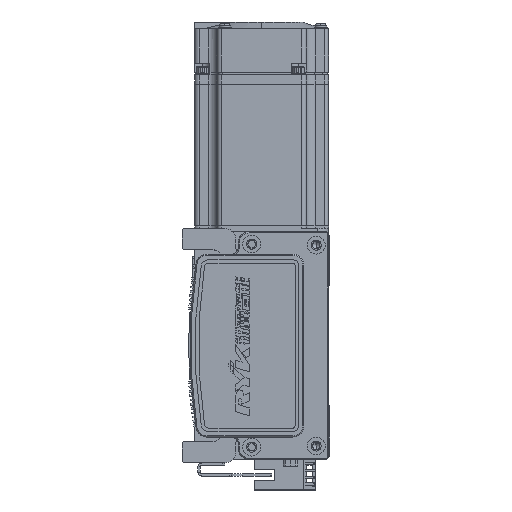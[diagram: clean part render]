
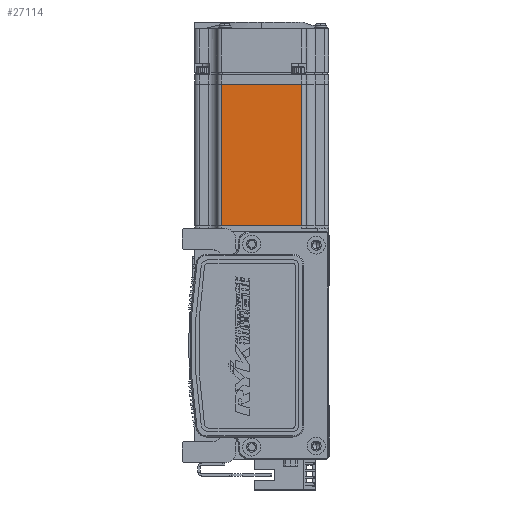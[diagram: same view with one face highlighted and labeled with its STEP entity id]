
A CAD part, left-side view. The second image highlights one B-rep face of the part: STEP entity #27114.
In plain terms, the highlighted planar face has unit normal (-1, 0, 0) as drawn and (0, 0, -1) by its records, which use the part's own axes.
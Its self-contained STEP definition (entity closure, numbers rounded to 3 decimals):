
#139 = DIRECTION ( 'NONE',  ( 1., 0., 0. ) ) ;
#1027 = CARTESIAN_POINT ( 'NONE',  ( -70.95, 25., -30. ) ) ;
#2162 = CARTESIAN_POINT ( 'NONE',  ( -70.95, 18., -30. ) ) ;
#3736 = LINE ( 'NONE', #1027, #49995 ) ;
#4298 = LINE ( 'NONE', #8071, #20242 ) ;
#4303 = CARTESIAN_POINT ( 'NONE',  ( -7.75, 25., -30. ) ) ;
#5466 = DIRECTION ( 'NONE',  ( 0., 0., -1. ) ) ;
#7720 = EDGE_LOOP ( 'NONE', ( #34503, #42675, #32839, #25451 ) ) ;
#7960 = CARTESIAN_POINT ( 'NONE',  ( -7.75, -18., -30. ) ) ;
#8071 = CARTESIAN_POINT ( 'NONE',  ( -6.5, -18., -30. ) ) ;
#10190 = VERTEX_POINT ( 'NONE', #7960 ) ;
#12372 = VERTEX_POINT ( 'NONE', #2162 ) ;
#13340 = EDGE_CURVE ( 'NONE', #12372, #35164, #23524, .T. ) ;
#13509 = VERTEX_POINT ( 'NONE', #47395 ) ;
#15843 = FACE_OUTER_BOUND ( 'NONE', #7720, .T. ) ;
#18894 = EDGE_CURVE ( 'NONE', #13509, #12372, #3736, .T. ) ;
#20242 = VECTOR ( 'NONE', #33286, 1000. ) ;
#23524 = LINE ( 'NONE', #25103, #37943 ) ;
#24812 = DIRECTION ( 'NONE',  ( 0., -1., 0. ) ) ;
#25103 = CARTESIAN_POINT ( 'NONE',  ( -6.5, 18., -30. ) ) ;
#25451 = ORIENTED_EDGE ( 'NONE', *, *, #13340, .T. ) ;
#27114 = ADVANCED_FACE ( 'NONE', ( #15843 ), #36016, .T. ) ;
#28301 = EDGE_CURVE ( 'NONE', #35164, #10190, #29653, .T. ) ;
#29653 = LINE ( 'NONE', #4303, #32070 ) ;
#31873 = CARTESIAN_POINT ( 'NONE',  ( -7.75, 18., -30. ) ) ;
#32070 = VECTOR ( 'NONE', #24812, 1000. ) ;
#32839 = ORIENTED_EDGE ( 'NONE', *, *, #18894, .T. ) ;
#33286 = DIRECTION ( 'NONE',  ( -1., 0., 0. ) ) ;
#34503 = ORIENTED_EDGE ( 'NONE', *, *, #28301, .T. ) ;
#35122 = DIRECTION ( 'NONE',  ( -1., 0., 0. ) ) ;
#35164 = VERTEX_POINT ( 'NONE', #31873 ) ;
#35840 = DIRECTION ( 'NONE',  ( 0., 1., 0. ) ) ;
#36016 = PLANE ( 'NONE',  #58973 ) ;
#37943 = VECTOR ( 'NONE', #139, 1000. ) ;
#37995 = EDGE_CURVE ( 'NONE', #10190, #13509, #4298, .T. ) ;
#42675 = ORIENTED_EDGE ( 'NONE', *, *, #37995, .T. ) ;
#45618 = CARTESIAN_POINT ( 'NONE',  ( -6.5, 25., -30. ) ) ;
#47395 = CARTESIAN_POINT ( 'NONE',  ( -70.95, -18., -30. ) ) ;
#49995 = VECTOR ( 'NONE', #35840, 1000. ) ;
#58973 = AXIS2_PLACEMENT_3D ( 'NONE', #45618, #5466, #35122 ) ;
